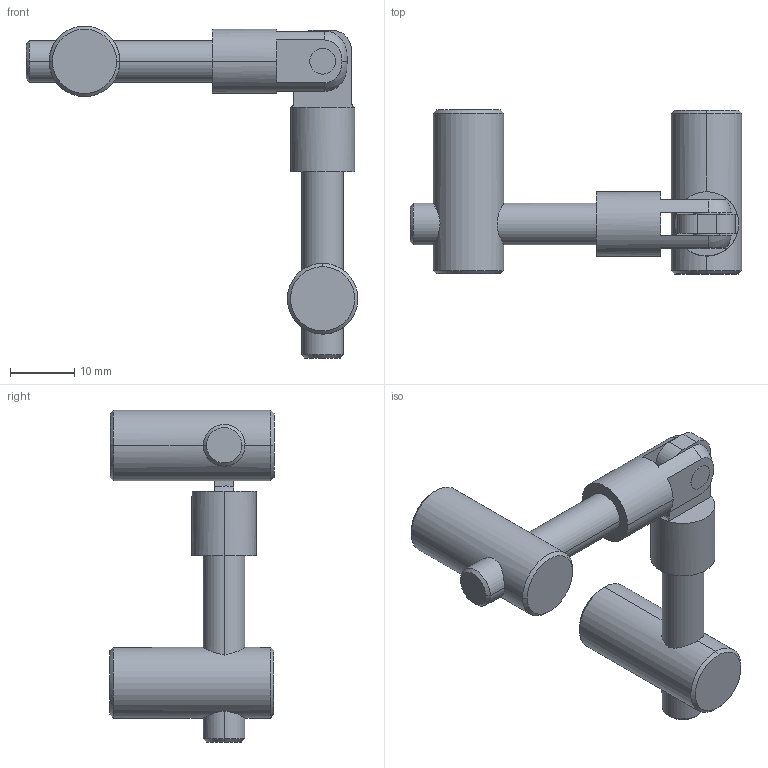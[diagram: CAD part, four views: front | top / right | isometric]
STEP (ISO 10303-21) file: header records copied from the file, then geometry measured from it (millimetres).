
FILE_DESCRIPTION (( 'STEP AP203' ), '1' );
FILE_NAME ('5221.STEP', '2016-04-10T12:08:57', ( '' ), ( '' ), 'SwSTEP 2.0', 'SolidWorks 2014', '' );
FILE_SCHEMA (( 'CONFIG_CONTROL_DESIGN' ));
Length unit declared in the file: millimetre
Products named in the file (5): 3; 4; 1; 5221; 2
Assembly tree (6 placements, depth 2):
  5221
    1
    2
    3  x2
    4  x2
Bounding box: 51.68 x 25.53 x 51.68 mm (x, y, z)
Volume: 7874.2 mm3; surface area: 6639.3 mm2
Topology: 7 solids, 7 shells, 122 faces, 279 edges, 170 vertices
Faces by surface type: cylinder 46, plane 46, cone 16, torus 8, bspline 6
Entity records: 3839 total; most frequent: CARTESIAN_POINT 1314, ORIENTED_EDGE 408, DIRECTION 406, EDGE_CURVE 204, AXIS2_PLACEMENT_3D 160, VERTEX_POINT 126, EDGE_LOOP 96, FACE_OUTER_BOUND 89
